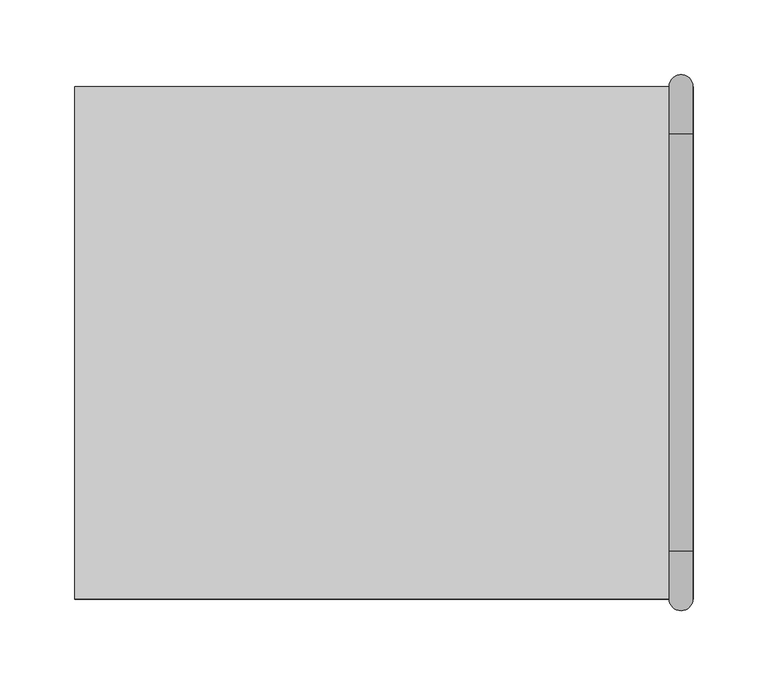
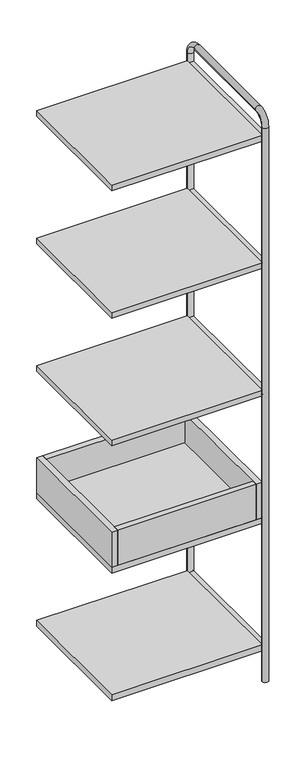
"""IFC4 building model written with IfcOpenShell, lengths in millimetres: furniture geometry, Tubbe Bookcase_Intermediate Unit_4x1 : Tubbe Bookcase_Intermediate Unit_4x1_4x4."""

from ifc_helpers import new_model, si_unit, point, frame, frame_2d, origin, place, context, project, spatial, polyline, circle_curve, ellipse_curve, trimmed, segment, composite_curve, outline, extrude, source, transform, mapped, element, save
from ifc_brep_helpers import plane_surface, cylinder_surface, revolved_surface, advanced_brep


def furniture_414cf7f5(model_context):
    return source(origin(), model_context, "Body", "SolidModel", [
        extrude(outline(polyline([(183.0, 155.5), (183.0, -155.5), (-183.0, -155.5), (-183.0, 155.5), (183.0, 155.5)])), frame((0.0, 0.0, 458.0), z_axis=(0.0, 0.0, 1.0), x_axis=(1.0, 0.0, 0.0)), (0.0, 0.0, 1.0), 16.0),
        extrude(outline(polyline([(183.0, -171.5), (-183.0, -171.5), (-183.0, -155.5), (183.0, -155.5), (183.0, -171.5)])), frame((0.0, 0.0, 458.0), z_axis=(0.0, 0.0, 1.0), x_axis=(1.0, 0.0, 0.0)), (0.0, 0.0, 1.0), 98.0),
        extrude(outline(polyline([(183.0, 155.5), (-183.0, 155.5), (-183.0, 171.5), (183.0, 171.5), (183.0, 155.5)])), frame((0.0, 0.0, 458.0), z_axis=(0.0, 0.0, 1.0), x_axis=(1.0, 0.0, 0.0)), (0.0, 0.0, 1.0), 98.0),
        extrude(outline(polyline([(199.0, 171.5), (199.0, -171.5), (183.0, -171.5), (183.0, 171.5), (199.0, 171.5)])), frame((0.0, 0.0, 458.0), z_axis=(0.0, 0.0, 1.0), x_axis=(1.0, 0.0, 0.0)), (0.0, 0.0, 1.0), 98.0),
        extrude(outline(polyline([(-183.0, 171.5), (-183.0, -171.5), (-199.0, -171.5), (-199.0, 171.5), (-183.0, 171.5)])), frame((0.0, 0.0, 458.0), z_axis=(0.0, 0.0, 1.0), x_axis=(1.0, 0.0, 0.0)), (0.0, 0.0, 1.0), 98.0),
        extrude(outline(polyline([(199.0, 171.5), (199.0, -171.5), (-199.0, -171.5), (-199.0, 171.5), (199.0, 171.5)])), frame((0.0, 0.0, 1510.0), z_axis=(0.0, 0.0, 1.0), x_axis=(1.0, 0.0, 0.0)), (0.0, 0.0, 1.0), 16.0),
        extrude(outline(polyline([(199.0, 171.5), (199.0, -171.5), (-199.0, -171.5), (-199.0, 171.5), (199.0, 171.5)])), frame((0.0, 0.0, 1154.0), z_axis=(0.0, 0.0, 1.0), x_axis=(1.0, 0.0, 0.0)), (0.0, 0.0, 1.0), 16.0),
        extrude(outline(polyline([(199.0, 171.5), (199.0, -171.5), (-199.0, -171.5), (-199.0, 171.5), (199.0, 171.5)])), frame((0.0, 0.0, 798.0), z_axis=(0.0, 0.0, 1.0), x_axis=(1.0, 0.0, 0.0)), (0.0, 0.0, 1.0), 16.0),
        extrude(outline(polyline([(199.0, 171.5), (199.0, -171.5), (-199.0, -171.5), (-199.0, 171.5), (199.0, 171.5)])), frame((0.0, 0.0, 442.0), z_axis=(0.0, 0.0, 1.0), x_axis=(1.0, 0.0, 0.0)), (0.0, 0.0, 1.0), 16.0),
        extrude(outline(polyline([(199.0, 171.5), (199.0, -171.5), (-199.0, -171.5), (-199.0, 171.5), (199.0, 171.5)])), frame((0.0, 0.0, 86.0), z_axis=(0.0, 0.0, 1.0), x_axis=(1.0, 0.0, 0.0)), (0.0, 0.0, 1.0), 16.0),
        advanced_brep(
        [(198.7794453, 171.5, 0.0), (214.7794453, 171.5, 0.0), (198.7794453, 171.5, 1548.0), (214.7794453, 171.5, 1548.0), (214.7794453, 139.5, 1580.0), (198.7794453, 139.5, 1580.0), (198.7794453, -139.5, 1580.0), (214.7794453, -139.5, 1580.0), (214.7794453, -171.5, 1548.0), (198.7794453, -171.5, 1548.0), (198.7794453, -171.5, 0.0), (214.7794453, -171.5, 0.0)],
        [
            (0, 1, circle_curve(frame((206.7794453, 171.5, 0.0), z_axis=(0.0, 0.0, -1.0), x_axis=(1.0, 0.0, 0.0)), 8.0)),
            (1, 0, circle_curve(frame((206.7794453, 171.5, 0.0), z_axis=(0.0, 0.0, -1.0), x_axis=(1.0, 0.0, 0.0)), 8.0)),
            (0, 2),
            (2, 3, circle_curve(frame((206.7794453, 171.5, 1548.0), z_axis=(0.0, 0.0, -1.0), x_axis=(1.0, 0.0, 0.0)), 8.0)),
            (3, 1),
            (3, 2, circle_curve(frame((206.7794453, 171.5, 1548.0), z_axis=(0.0, 0.0, -1.0), x_axis=(1.0, 0.0, 0.0)), 8.0)),
            (4, 5, circle_curve(frame((206.7794453, 139.5, 1580.0), z_axis=(0.0, -1.0, 0.0), x_axis=(1.0, 0.0, 0.0)), 8.0)),
            (5, 6),
            (6, 7, circle_curve(frame((206.7794453, -139.5, 1580.0), z_axis=(0.0, 1.0, 0.0), x_axis=(1.0, 0.0, 0.0)), 8.0)),
            (7, 4),
            (5, 4, circle_curve(frame((206.7794453, 139.5, 1580.0), z_axis=(0.0, -1.0, 0.0), x_axis=(1.0, 0.0, 0.0)), 8.0)),
            (7, 6, circle_curve(frame((206.7794453, -139.5, 1580.0), z_axis=(0.0, 1.0, 0.0), x_axis=(1.0, 0.0, 0.0)), 8.0)),
            (8, 7, circle_curve(frame((214.7794453, -139.5, 1548.0), z_axis=(-1.0, 0.0, 0.0), x_axis=(0.0, 0.0, 1.0)), 32.0)),
            (6, 9, circle_curve(frame((198.7794453, -139.5, 1548.0), z_axis=(1.0, 0.0, 0.0), x_axis=(0.0, 0.0, 1.0)), 32.0)),
            (9, 8, circle_curve(frame((206.7794453, -171.5, 1548.0), z_axis=(0.0, 0.0, 1.0), x_axis=(1.0, 0.0, 0.0)), 8.0)),
            (8, 9, circle_curve(frame((206.7794453, -171.5, 1548.0), z_axis=(0.0, 0.0, 1.0), x_axis=(1.0, 0.0, 0.0)), 8.0)),
            (10, 11, circle_curve(frame((206.7794453, -171.5, 0.0), z_axis=(0.0, 0.0, -1.0), x_axis=(1.0, 0.0, 0.0)), 8.0)),
            (11, 10, circle_curve(frame((206.7794453, -171.5, 0.0), z_axis=(0.0, 0.0, -1.0), x_axis=(1.0, 0.0, 0.0)), 8.0)),
            (9, 10),
            (11, 8),
            (4, 3, circle_curve(frame((214.7794453, 139.5, 1548.0), z_axis=(-1.0, 0.0, 0.0), x_axis=(0.0, 1.0, 0.0)), 32.0)),
            (2, 5, circle_curve(frame((198.7794453, 139.5, 1548.0), z_axis=(1.0, 0.0, 0.0), x_axis=(0.0, 1.0, 0.0)), 32.0)),
        ],
        [
            plane_surface(frame((207.0, 171.5, 0.0), z_axis=(0.0, 0.0, -1.0), x_axis=(1.0, 0.0, 0.0))),
            cylinder_surface(frame((206.7794453, 171.5, 0.0), z_axis=(0.0, 0.0, -1.0), x_axis=(1.0, 0.0, 0.0)), 8.0),
            cylinder_surface(frame((206.7794453, 139.5, 1580.0), z_axis=(0.0, 1.0, 0.0), x_axis=(1.0, 0.0, 0.0)), 8.0),
            revolved_surface(trimmed(ellipse_curve(frame((206.7794453, -139.5, 1580.0), z_axis=(0.0, 1.0, 0.0), x_axis=(1.0, 0.0, 0.0)), 8.0, 8.0), [point((198.7794453, -139.5, 1580.0))], [point((214.7794453, -139.5, 1580.0))], True, "CARTESIAN"), (207.0, -139.5, 1548.0), (1.0, 0.0, 0.0)),
            revolved_surface(trimmed(ellipse_curve(frame((206.7794453, -139.5, 1580.0), z_axis=(0.0, 1.0, 0.0), x_axis=(1.0, 0.0, 0.0)), 8.0, 8.0), [point((214.7794453, -139.5, 1580.0))], [point((198.7794453, -139.5, 1580.0))], True, "CARTESIAN"), (207.0, -139.5, 1548.0), (1.0, 0.0, 0.0)),
            plane_surface(frame((207.0, -171.5, 0.0), z_axis=(0.0, 0.0, -1.0), x_axis=(1.0, 0.0, 0.0))),
            cylinder_surface(frame((206.7794453, -171.5, 1548.0), z_axis=(0.0, 0.0, 1.0), x_axis=(1.0, 0.0, 0.0)), 8.0),
            revolved_surface(trimmed(ellipse_curve(frame((206.7794453, 171.5, 1548.0), z_axis=(0.0, 0.0, -1.0), x_axis=(1.0, 0.0, 0.0)), 8.0, 8.0), [point((198.7794453, 171.5, 1548.0))], [point((214.7794453, 171.5, 1548.0))], True, "CARTESIAN"), (207.0, 139.5, 1548.0), (1.0, 0.0, 0.0)),
            revolved_surface(trimmed(ellipse_curve(frame((206.7794453, 171.5, 1548.0), z_axis=(0.0, 0.0, -1.0), x_axis=(1.0, 0.0, 0.0)), 8.0, 8.0), [point((214.7794453, 171.5, 1548.0))], [point((198.7794453, 171.5, 1548.0))], True, "CARTESIAN"), (207.0, 139.5, 1548.0), (1.0, 0.0, 0.0)),
        ],
        [
            (0, [[1, 2]]),
            (1, [[-1, 3, 4, 5]]),
            (1, [[-2, -5, 6, -3]]),
            (2, [[7, 8, 9, 10]]),
            (2, [[11, -10, 12, -8]]),
            (3, [[13, -9, 14, 15]]),
            (4, [[-14, -12, -13, 16]]),
            (5, [[17, 18]]),
            (6, [[-15, 19, -18, 20]]),
            (6, [[-16, -20, -17, -19]]),
            (7, [[21, -4, 22, -7]]),
            (8, [[-22, -6, -21, -11]]),
        ],
    ),
        extrude(outline(composite_curve([segment(trimmed(circle_curve(frame_2d((806.0, 207.0)), 8.0), [point((806.0, 199.0))], [point((806.0, 215.0))], False, "CARTESIAN"), True, "CONTINUOUS"), segment(trimmed(circle_curve(frame_2d((806.0, 207.0)), 8.0), [point((806.0, 215.0))], [point((806.0, 199.0))], False, "CARTESIAN"), True, "CONTINUOUS")], self_intersect=False)), frame((0.0, -171.5, 0.0), z_axis=(0.0, 1.0, 0.0), x_axis=(0.0, 0.0, 1.0)), (0.0, 0.0, 1.0), 343.0),
        extrude(outline(composite_curve([segment(trimmed(circle_curve(frame_2d((450.0, 207.0)), 8.0), [point((450.0, 199.0))], [point((450.0, 215.0))], False, "CARTESIAN"), True, "CONTINUOUS"), segment(trimmed(circle_curve(frame_2d((450.0, 207.0)), 8.0), [point((450.0, 215.0))], [point((450.0, 199.0))], False, "CARTESIAN"), True, "CONTINUOUS")], self_intersect=False)), frame((0.0, -171.5, 0.0), z_axis=(0.0, 1.0, 0.0), x_axis=(0.0, 0.0, 1.0)), (0.0, 0.0, 1.0), 343.0),
        extrude(outline(composite_curve([segment(trimmed(circle_curve(frame_2d((94.0, 207.0)), 8.0), [point((94.0, 199.0))], [point((94.0, 215.0))], False, "CARTESIAN"), True, "CONTINUOUS"), segment(trimmed(circle_curve(frame_2d((94.0, 207.0)), 8.0), [point((94.0, 215.0))], [point((94.0, 199.0))], False, "CARTESIAN"), True, "CONTINUOUS")], self_intersect=False)), frame((0.0, -171.5, 0.0), z_axis=(0.0, 1.0, 0.0), x_axis=(0.0, 0.0, 1.0)), (0.0, 0.0, 1.0), 343.0),
        extrude(outline(composite_curve([segment(trimmed(circle_curve(frame_2d((1518.0, 207.0)), 8.0), [point((1518.0, 199.0))], [point((1518.0, 215.0))], False, "CARTESIAN"), True, "CONTINUOUS"), segment(trimmed(circle_curve(frame_2d((1518.0, 207.0)), 8.0), [point((1518.0, 215.0))], [point((1518.0, 199.0))], False, "CARTESIAN"), True, "CONTINUOUS")], self_intersect=False)), frame((0.0, -171.5, 0.0), z_axis=(0.0, 1.0, 0.0), x_axis=(0.0, 0.0, 1.0)), (0.0, 0.0, 1.0), 343.0),
        extrude(outline(composite_curve([segment(trimmed(circle_curve(frame_2d((1162.0, 207.0)), 8.0), [point((1162.0, 199.0))], [point((1162.0, 215.0))], False, "CARTESIAN"), True, "CONTINUOUS"), segment(trimmed(circle_curve(frame_2d((1162.0, 207.0)), 8.0), [point((1162.0, 215.0))], [point((1162.0, 199.0))], False, "CARTESIAN"), True, "CONTINUOUS")], self_intersect=False)), frame((0.0, -171.5, 0.0), z_axis=(0.0, 1.0, 0.0), x_axis=(0.0, 0.0, 1.0)), (0.0, 0.0, 1.0), 343.0),
    ])


if __name__ == "__main__":
    model = new_model("IFC4")
    model_context = context("Model", 3, world=origin())
    ifc_project = project(units=[si_unit("LENGTHUNIT", "METRE", prefix="MILLI")], contexts=[model_context])
    site = spatial("IfcSite", under=ifc_project)
    building = spatial("IfcBuilding", under=site)
    placement = place(None, origin())
    furniture_shape = furniture_414cf7f5(model_context)
    element("IfcFurniture", 1, ObjectType="Tubbe Bookcase_Intermediate Unit_4x1 : Tubbe Bookcase_Intermediate Unit_4x1_4x4", at=placement, inside=building, context=model_context, shape_type="MappedRepresentation", body=[
        mapped(furniture_shape, transform((0.0, 0.0, 0.0), x_axis=(1.0, 0.0, 0.0), y_axis=(0.0, 1.0, 0.0), z_axis=(0.0, 0.0, 1.0))),
    ])
    save(model, "model.ifc")
